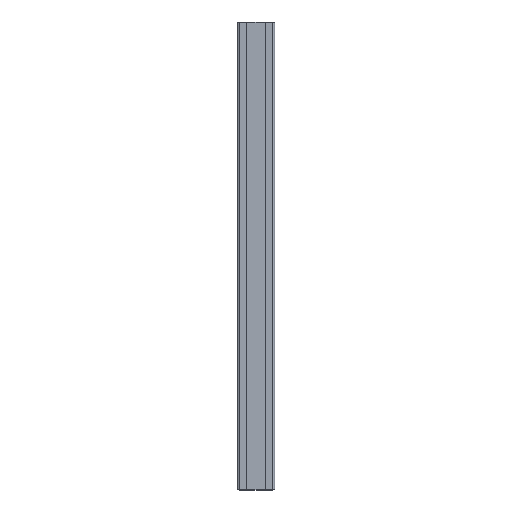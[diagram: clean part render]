
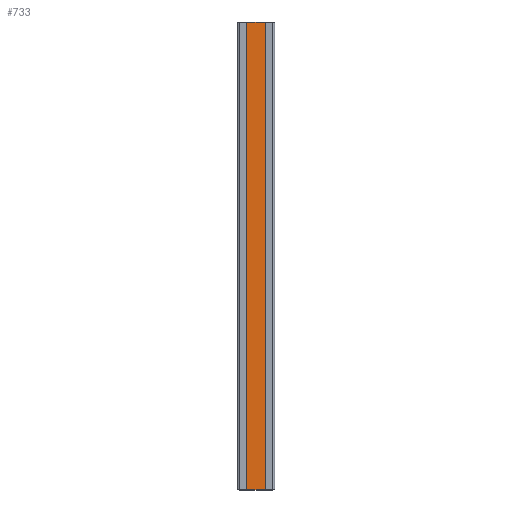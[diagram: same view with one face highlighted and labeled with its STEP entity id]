
A CAD part, top view. The second image highlights one B-rep face of the part: STEP entity #733.
In plain terms, the highlighted planar face has unit normal (0, 0, 1).
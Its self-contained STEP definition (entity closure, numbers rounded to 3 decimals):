
#29 = ORIENTED_EDGE ( 'NONE', *, *, #442, .T. ) ;
#34 = EDGE_CURVE ( 'NONE', #157, #635, #70, .T. ) ;
#35 = CARTESIAN_POINT ( 'NONE',  ( 17.5, 0., 2. ) ) ;
#40 = VERTEX_POINT ( 'NONE', #343 ) ;
#43 = DIRECTION ( 'NONE',  ( 0., -1., 0. ) ) ;
#54 = CARTESIAN_POINT ( 'NONE',  ( 0., 0., 2. ) ) ;
#62 = EDGE_CURVE ( 'NONE', #40, #517, #78, .T. ) ;
#70 = LINE ( 'NONE', #696, #434 ) ;
#78 = LINE ( 'NONE', #35, #757 ) ;
#97 = FACE_OUTER_BOUND ( 'NONE', #693, .T. ) ;
#151 = CARTESIAN_POINT ( 'NONE',  ( 0., 500., 2. ) ) ;
#157 = VERTEX_POINT ( 'NONE', #713 ) ;
#224 = ORIENTED_EDGE ( 'NONE', *, *, #62, .T. ) ;
#245 = PLANE ( 'NONE',  #410 ) ;
#278 = CARTESIAN_POINT ( 'NONE',  ( 17.5, 500., 2. ) ) ;
#285 = ORIENTED_EDGE ( 'NONE', *, *, #34, .T. ) ;
#297 = VECTOR ( 'NONE', #772, 1000. ) ;
#343 = CARTESIAN_POINT ( 'NONE',  ( 17.5, 0., 2. ) ) ;
#353 = CARTESIAN_POINT ( 'NONE',  ( 0., 0., 2. ) ) ;
#402 = DIRECTION ( 'NONE',  ( 0., 1., 0. ) ) ;
#410 = AXIS2_PLACEMENT_3D ( 'NONE', #353, #596, #651 ) ;
#434 = VECTOR ( 'NONE', #43, 1000. ) ;
#442 = EDGE_CURVE ( 'NONE', #517, #157, #768, .T. ) ;
#517 = VERTEX_POINT ( 'NONE', #278 ) ;
#572 = DIRECTION ( 'NONE',  ( -1., 0., 0. ) ) ;
#596 = DIRECTION ( 'NONE',  ( 0., 0., 1. ) ) ;
#615 = LINE ( 'NONE', #54, #297 ) ;
#629 = ORIENTED_EDGE ( 'NONE', *, *, #636, .T. ) ;
#635 = VERTEX_POINT ( 'NONE', #781 ) ;
#636 = EDGE_CURVE ( 'NONE', #635, #40, #615, .T. ) ;
#651 = DIRECTION ( 'NONE',  ( 1., 0., 0. ) ) ;
#693 = EDGE_LOOP ( 'NONE', ( #29, #285, #629, #224 ) ) ;
#696 = CARTESIAN_POINT ( 'NONE',  ( -17.5, 0., 2. ) ) ;
#713 = CARTESIAN_POINT ( 'NONE',  ( -17.5, 500., 2. ) ) ;
#721 = VECTOR ( 'NONE', #572, 1000. ) ;
#733 = ADVANCED_FACE ( 'NONE', ( #97 ), #245, .T. ) ;
#757 = VECTOR ( 'NONE', #402, 1000. ) ;
#768 = LINE ( 'NONE', #151, #721 ) ;
#772 = DIRECTION ( 'NONE',  ( 1., 0., 0. ) ) ;
#781 = CARTESIAN_POINT ( 'NONE',  ( -17.5, 0., 2. ) ) ;
